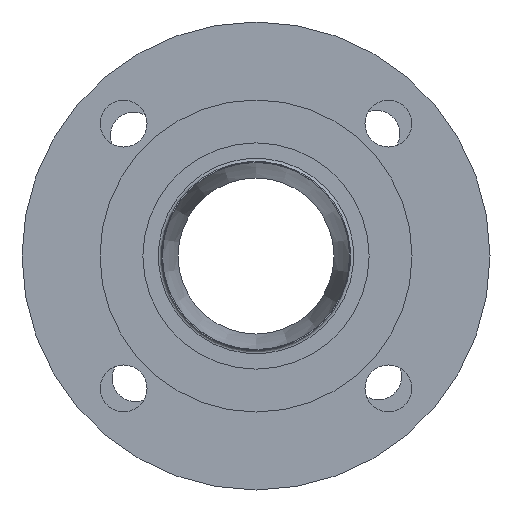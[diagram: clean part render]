
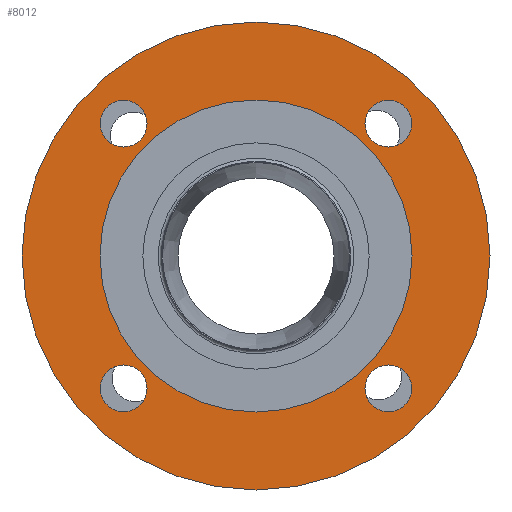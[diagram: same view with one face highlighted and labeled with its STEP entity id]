
A CAD part, front view. The second image highlights one B-rep face of the part: STEP entity #8012.
In plain terms, the highlighted planar face has unit normal (0, -1, 0) as drawn and (0, 1, 0) by its records, which use the part's own axes.
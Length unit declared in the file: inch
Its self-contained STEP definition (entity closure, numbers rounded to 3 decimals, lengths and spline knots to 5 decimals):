
#7797=CARTESIAN_POINT('',(-2.12132,0.5625,2.49632));
#7798=VERTEX_POINT('',#7797);
#7799=CARTESIAN_POINT('',(-2.12132,0.5625,2.12132));
#7800=DIRECTION('',(0.0,-1.0,0.0));
#7801=DIRECTION('',(0.0,0.0,1.0));
#7802=AXIS2_PLACEMENT_3D('',#7799,#7800,#7801);
#7803=CIRCLE('',#7802,0.375);
#7804=EDGE_CURVE('',#7798,#7798,#7803,.T.);
#7825=CARTESIAN_POINT('',(-2.49632,0.5625,-2.12132));
#7826=VERTEX_POINT('',#7825);
#7827=CARTESIAN_POINT('',(-2.12132,0.5625,-2.12132));
#7828=DIRECTION('',(0.0,-1.0,0.0));
#7829=DIRECTION('',(-1.0,0.0,0.0));
#7830=AXIS2_PLACEMENT_3D('',#7827,#7828,#7829);
#7831=CIRCLE('',#7830,0.375);
#7832=EDGE_CURVE('',#7826,#7826,#7831,.T.);
#7853=CARTESIAN_POINT('',(2.12132,0.5625,-2.49632));
#7854=VERTEX_POINT('',#7853);
#7855=CARTESIAN_POINT('',(2.12132,0.5625,-2.12132));
#7856=DIRECTION('',(0.0,-1.0,0.0));
#7857=DIRECTION('',(0.0,0.0,-1.0));
#7858=AXIS2_PLACEMENT_3D('',#7855,#7856,#7857);
#7859=CIRCLE('',#7858,0.375);
#7860=EDGE_CURVE('',#7854,#7854,#7859,.T.);
#7881=CARTESIAN_POINT('',(2.49632,0.5625,2.12132));
#7882=VERTEX_POINT('',#7881);
#7883=CARTESIAN_POINT('',(2.12132,0.5625,2.12132));
#7884=DIRECTION('',(0.0,-1.0,0.0));
#7885=DIRECTION('',(1.0,0.0,0.0));
#7886=AXIS2_PLACEMENT_3D('',#7883,#7884,#7885);
#7887=CIRCLE('',#7886,0.375);
#7888=EDGE_CURVE('',#7882,#7882,#7887,.T.);
#7909=CARTESIAN_POINT('',(2.5,0.5625,0.));
#7910=VERTEX_POINT('',#7909);
#7911=CARTESIAN_POINT('',(0.0,0.5625,0.0));
#7912=DIRECTION('',(0.0,-1.0,0.0));
#7913=DIRECTION('',(-1.0,0.0,0.0));
#7914=AXIS2_PLACEMENT_3D('',#7911,#7912,#7913);
#7915=CIRCLE('',#7914,2.5);
#7916=EDGE_CURVE('',#7910,#7910,#7915,.T.);
#7966=CARTESIAN_POINT('',(-3.75,0.5625,0.));
#7967=VERTEX_POINT('',#7966);
#7968=CARTESIAN_POINT('',(0.0,0.5625,0.0));
#7969=DIRECTION('',(0.0,-1.0,0.0));
#7970=DIRECTION('',(1.0,0.0,0.0));
#7971=AXIS2_PLACEMENT_3D('',#7968,#7969,#7970);
#7972=CIRCLE('',#7971,3.75);
#7973=EDGE_CURVE('',#7967,#7967,#7972,.T.);
#7989=CARTESIAN_POINT('',(0.0,0.5625,0.0));
#7990=DIRECTION('',(0.0,-1.0,0.0));
#7991=DIRECTION('',(0.0,0.0,-1.0));
#7992=AXIS2_PLACEMENT_3D('',#7989,#7990,#7991);
#7993=PLANE('',#7992);
#7994=ORIENTED_EDGE('',*,*,#7973,.F.);
#7995=EDGE_LOOP('',(#7994));
#7996=FACE_OUTER_BOUND('',#7995,.T.);
#7997=ORIENTED_EDGE('',*,*,#7804,.T.);
#7998=EDGE_LOOP('',(#7997));
#7999=FACE_BOUND('',#7998,.T.);
#8000=ORIENTED_EDGE('',*,*,#7832,.T.);
#8001=EDGE_LOOP('',(#8000));
#8002=FACE_BOUND('',#8001,.T.);
#8003=ORIENTED_EDGE('',*,*,#7860,.T.);
#8004=EDGE_LOOP('',(#8003));
#8005=FACE_BOUND('',#8004,.T.);
#8006=ORIENTED_EDGE('',*,*,#7888,.T.);
#8007=EDGE_LOOP('',(#8006));
#8008=FACE_BOUND('',#8007,.T.);
#8009=ORIENTED_EDGE('',*,*,#7916,.T.);
#8010=EDGE_LOOP('',(#8009));
#8011=FACE_BOUND('',#8010,.T.);
#8012=ADVANCED_FACE('',(#7996,#7999,#8002,#8005,#8008,#8011),#7993,.F.);
